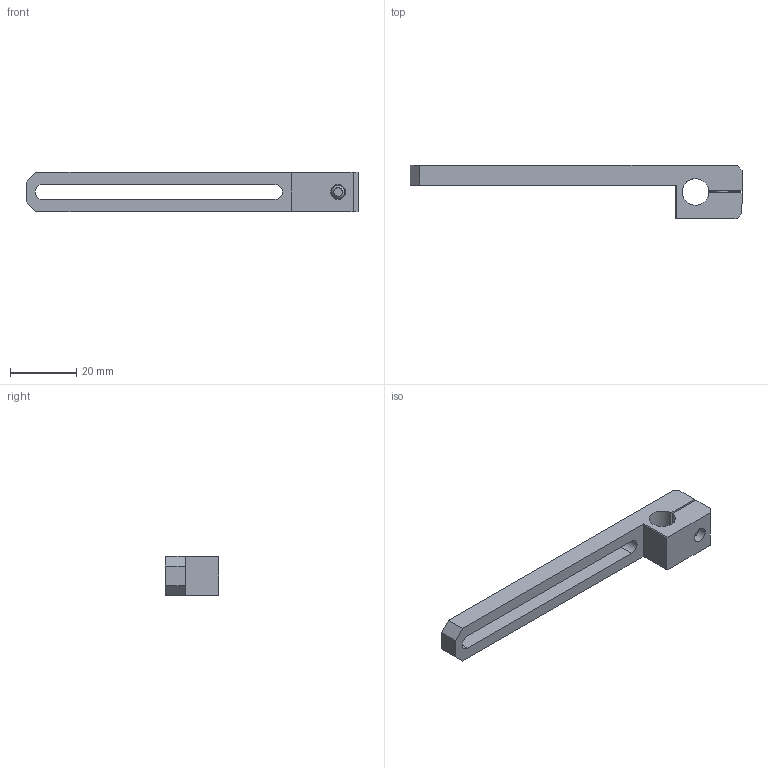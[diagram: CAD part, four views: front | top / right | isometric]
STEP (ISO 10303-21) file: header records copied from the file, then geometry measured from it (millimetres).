
FILE_DESCRIPTION (( 'STEP AP214' ), '1' );
FILE_NAME ('SCF5-0870W12.STEP', '2019-11-11T02:09:31', ( '微软用户' ), ( '微软中国' ), 'SwSTEP 2.0', 'SolidWorks 2016', '' );
FILE_SCHEMA (( 'AUTOMOTIVE_DESIGN' ));
Length unit declared in the file: millimetre
Products named in the file (1): SCF5-0870W12
Bounding box: 100 x 16 x 12 mm (x, y, z)
Volume: 6723.4 mm3; surface area: 5587.2 mm2
Topology: 3 solids, 3 shells, 243 faces, 698 edges, 462 vertices
Faces by surface type: plane 222, cylinder 17, cone 2, bspline 2
Entity records: 10840 total; most frequent: CARTESIAN_POINT 1528, DIRECTION 1400, ORIENTED_EDGE 1396, EDGE_CURVE 698, LINE 472, VECTOR 472, AXIS2_PLACEMENT_3D 464, VERTEX_POINT 462
